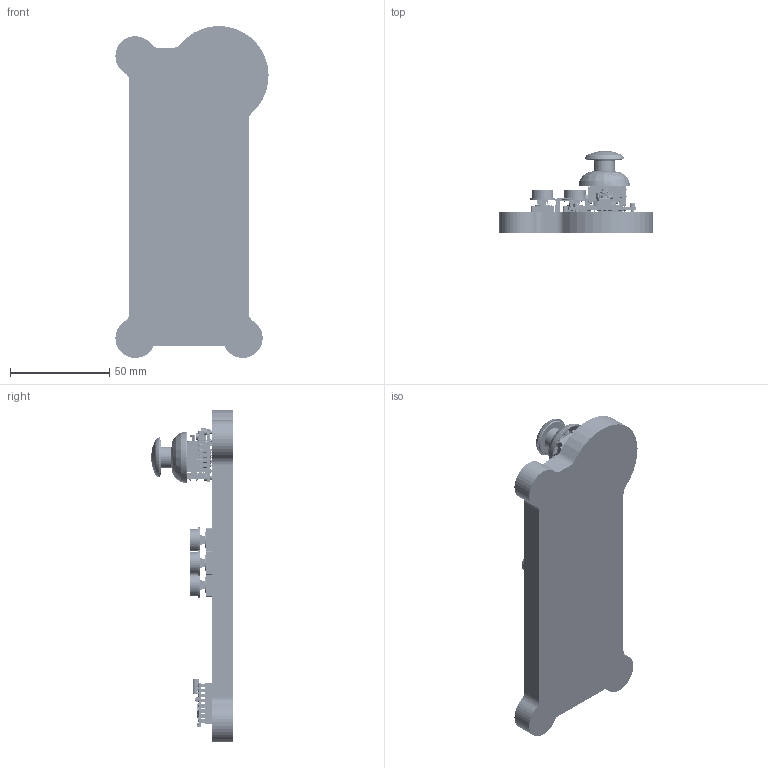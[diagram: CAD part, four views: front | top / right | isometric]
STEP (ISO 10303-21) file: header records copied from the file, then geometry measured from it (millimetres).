
FILE_DESCRIPTION(/* description */ ('','CAx-IF Rec.Pracs.---Representation and Presentation of Product Manufacturing Information (PMI)---4.0---2014-10-13'),/* implementation_level */ '2;1');
FILE_NAME(/* name */ 'esp32_c3_smini_controller.stp',/* time_stamp */ '2026-06-07T10:00:11+02:00',/* author */ ('R5800u'),/* organization */ (''),/* preprocessor_version */ 'ST-DEVELOPER v20',/* originating_system */ 'Autodesk Inventor 2025',/* authorisation */ '');
FILE_SCHEMA (('AP242_MANAGED_MODEL_BASED_3D_ENGINEERING_MIM_LF { 1 0 10303 442 1 1 4 }'));
Products named in the file (58): esp32_c3_smini_scatola; Half-Size Breadboard; Main Half-Size Board; Half-Size Side Rail; scatola_esp32_c3_breadboard; batteria; Button 4 pins assembly; socket button; button; KY-023_assy; ESP32-C3 sm with expansion board; ESP32-C3 Super Mini breakout expansion board mo; ESP32-C3-SuperMini; 2025-08-30-17-43-03-298; 2025-08-30-17-43-03-305; 2025-08-30-17-43-03-307; 2025-08-30-17-43-03-312; 2025-08-30-17-43-03-328; 2025-08-30-17-43-03-327; 2025-08-30-17-43-03-327_1; 2025-08-30-17-43-03-327_2; 2025-08-30-17-43-03-327_3; 2025-08-30-17-43-03-327_4; 2025-08-30-17-43-03-327_5; 2025-08-30-17-43-03-342; 2025-08-30-17-43-03-357; 2025-08-30-17-43-03-358; 2025-08-30-17-43-03-365; 2025-08-30-17-43-03-333; 2025-08-30-17-43-03-333_1; 2025-08-30-17-43-03-333_2; 2025-08-30-17-43-03-333_3; 2025-08-30-17-43-03-333_4; 2025-08-30-17-43-03-333_5; 2025-08-30-17-43-03-333_6; 2025-08-30-17-43-03-333_7; 2025-08-30-17-43-03-333_8; 2025-08-30-17-43-03-340; 2025-08-30-17-43-03-339; 2025-08-30-17-43-03-339_1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
Assembly tree (105 placements, depth 7):
  esp32_c3_smini_scatola
    Half-Size Breadboard
      Main Half-Size Board
      Half-Size Side Rail  x2
    scatola_esp32_c3_breadboard
    Button 4 pins assembly  x4
      socket button
      button
    batteria
    KY-023_assy
    ESP32-C3 sm with expansion board
      ESP32-C3 Super Mini breakout expansion board mo
      ESP32-C3-SuperMini
        2025-08-30-17-43-03-298
        2025-08-30-17-43-03-305
        2025-08-30-17-43-03-307
        2025-08-30-17-43-03-312
        2025-08-30-17-43-03-328
          2025-08-30-17-43-03-327
            2025-08-30-17-43-03-327_1
            2025-08-30-17-43-03-327_2
            2025-08-30-17-43-03-327_3
            2025-08-30-17-43-03-327_4
            2025-08-30-17-43-03-327_5
        2025-08-30-17-43-03-342
        2025-08-30-17-43-03-357
        2025-08-30-17-43-03-358
        2025-08-30-17-43-03-365
          2025-08-30-17-43-03-333
            2025-08-30-17-43-03-333_1
              2025-08-30-17-43-03-333_6
              2025-08-30-17-43-03-333_7
              2025-08-30-17-43-03-333_8
          2025-08-30-17-43-03-330  x20
          2025-08-30-17-43-03-333_2
            2025-08-30-17-43-03-333_3
              2025-08-30-17-43-03-333_6
              2025-08-30-17-43-03-333_7
              2025-08-30-17-43-03-333_8
          2025-08-30-17-43-03-333_4
            2025-08-30-17-43-03-333_5
              2025-08-30-17-43-03-333_6
              2025-08-30-17-43-03-333_7
              2025-08-30-17-43-03-333_8
          2025-08-30-17-43-03-340
            2025-08-30-17-43-03-339
            2025-08-30-17-43-03-339_1
            2025-08-30-17-43-03-339_2
            2025-08-30-17-43-03-340_1
        2025-08-30-17-43-03-448
          2025-08-30-17-43-03-323  x2
            2025-08-30-17-43-03-322
              2025-08-30-17-43-03-321
              2025-08-30-17-43-03-321_1
              2025-08-30-17-43-03-321_2
              2025-08-30-17-43-03-322_1
              2025-08-30-17-43-03-322_2
              2025-08-30-17-43-03-322_3
              2025-08-30-17-43-03-322_4
        2025-08-30-17-43-03-448_1
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Bounding box: 76.99 x 41.2 x 166.85 mm (x, y, z)
Volume: 96517.8 mm3; surface area: 78689.7 mm2
Topology: 358 solids, 442 shells, 17160 faces, 45132 edges, 28980 vertices
Faces by surface type: plane 10704, bspline 3056, cylinder 2540, sphere 368, torus 316, cone 176
Full cylindrical faces by diameter (mm): 0.25 x1, 0.269 x1, 0.3 x1, 0.5 x16, 0.6 x2, 0.8 x1, 0.859 x48, 1.2 x1, 1.6 x3, 1.665 x32, 1.8 x9, 1.85 x1, 1.9 x9, 2 x10, 2.1 x2, 2.8 x1, 3 x7, 3.5 x1, 3.6 x1, 3.8 x2, 5.2 x2, 5.8 x1, 6.2 x2, 7 x1, 8 x6, 9 x1, 10.6 x1, 11 x4, 12 x1, 13 x4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
Entity records: 455294 total; most frequent: CARTESIAN_POINT 120940, ORIENTED_EDGE 70084, DIRECTION 62978, EDGE_CURVE 35210, LINE 25700, VECTOR 25700, VERTEX_POINT 22799, AXIS2_PLACEMENT_3D 18639
